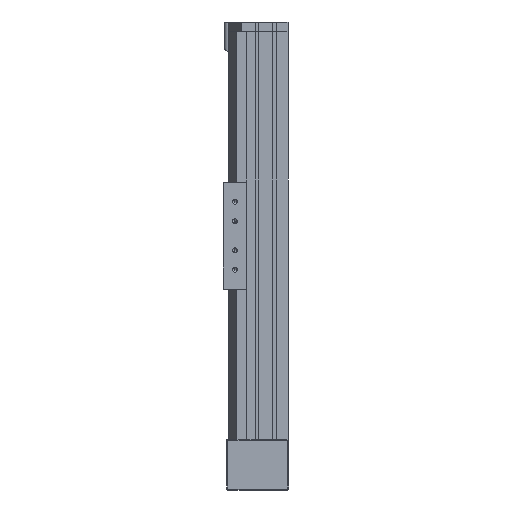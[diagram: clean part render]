
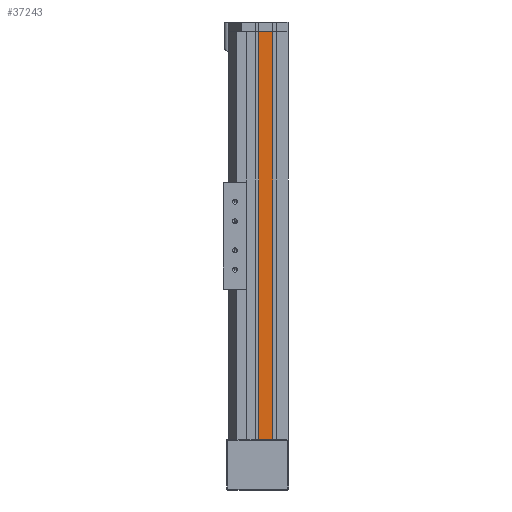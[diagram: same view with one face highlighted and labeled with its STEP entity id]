
A CAD part, left-side view. The second image highlights one B-rep face of the part: STEP entity #37243.
In plain terms, the highlighted planar face has unit normal (-1, 0, 0).
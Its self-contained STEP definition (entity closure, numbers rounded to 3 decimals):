
#16518 = VERTEX_POINT ( 'NONE', #22873 ) ;
#16522 = EDGE_CURVE ( 'NONE', #16518, #16534, #22909, .T. ) ;
#16534 = VERTEX_POINT ( 'NONE', #22941 ) ;
#16711 = VERTEX_POINT ( 'NONE', #23292 ) ;
#16771 = VERTEX_POINT ( 'NONE', #23393 ) ;
#16783 = EDGE_CURVE ( 'NONE', #16771, #16711, #22294, .T. ) ;
#17021 = EDGE_LOOP ( 'NONE', ( #37131, #37108, #37210, #37240 ) ) ;
#20960 = CARTESIAN_POINT ( 'NONE',  ( 0., 0., 0. ) ) ;
#21759 = VECTOR ( 'NONE', #22038, 1000. ) ;
#22038 = DIRECTION ( 'NONE',  ( 0., -1., 0. ) ) ;
#22294 = LINE ( 'NONE', #20960, #21759 ) ;
#22873 = CARTESIAN_POINT ( 'NONE',  ( 0., 30., 420. ) ) ;
#22906 = DIRECTION ( 'NONE',  ( 0., -1., 0. ) ) ;
#22907 = VECTOR ( 'NONE', #22906, 1000. ) ;
#22908 = CARTESIAN_POINT ( 'NONE',  ( 0., 0., 420. ) ) ;
#22909 = LINE ( 'NONE', #22908, #22907 ) ;
#22941 = CARTESIAN_POINT ( 'NONE',  ( 0., 15.5, 420. ) ) ;
#23292 = CARTESIAN_POINT ( 'NONE',  ( 0., 15.5, 0. ) ) ;
#23393 = CARTESIAN_POINT ( 'NONE',  ( 0., 30., 0. ) ) ;
#31124 = DIRECTION ( 'NONE',  ( 0., 0., -1. ) ) ;
#31129 = PLANE ( 'NONE',  #31146 ) ;
#31132 = FACE_OUTER_BOUND ( 'NONE', #17021, .T. ) ;
#31135 = VECTOR ( 'NONE', #31148, 1000. ) ;
#31140 = LINE ( 'NONE', #31149, #31135 ) ;
#31141 = DIRECTION ( 'NONE',  ( 1., 0., 0. ) ) ;
#31146 = AXIS2_PLACEMENT_3D ( 'NONE', #31151, #31141, #31124 ) ;
#31148 = DIRECTION ( 'NONE',  ( 0., 0., 1. ) ) ;
#31149 = CARTESIAN_POINT ( 'NONE',  ( 0., 15.5, 0. ) ) ;
#31151 = CARTESIAN_POINT ( 'NONE',  ( 0., 0., 420. ) ) ;
#31170 = DIRECTION ( 'NONE',  ( 0., 0., 1. ) ) ;
#31171 = VECTOR ( 'NONE', #31170, 1000. ) ;
#31172 = CARTESIAN_POINT ( 'NONE',  ( 0., 30., 0. ) ) ;
#31178 = LINE ( 'NONE', #31172, #31171 ) ;
#37108 = ORIENTED_EDGE ( 'NONE', *, *, #16522, .F. ) ;
#37131 = ORIENTED_EDGE ( 'NONE', *, *, #37241, .T. ) ;
#37210 = ORIENTED_EDGE ( 'NONE', *, *, #37257, .F. ) ;
#37240 = ORIENTED_EDGE ( 'NONE', *, *, #16783, .T. ) ;
#37241 = EDGE_CURVE ( 'NONE', #16711, #16534, #31140, .T. ) ;
#37243 = ADVANCED_FACE ( 'NONE', ( #31132 ), #31129, .F. ) ;
#37257 = EDGE_CURVE ( 'NONE', #16771, #16518, #31178, .T. ) ;
